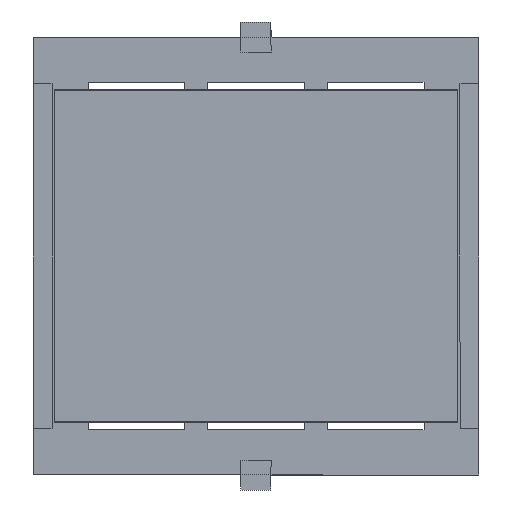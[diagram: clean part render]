
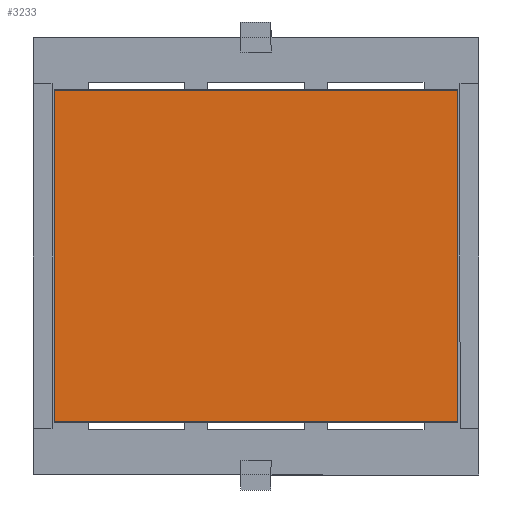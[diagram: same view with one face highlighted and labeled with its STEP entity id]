
A CAD part, front view. The second image highlights one B-rep face of the part: STEP entity #3233.
In plain terms, the highlighted planar face has unit normal (0, -1, 0).
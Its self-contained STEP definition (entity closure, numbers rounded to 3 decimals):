
#271 = DIRECTION ( 'NONE',  ( 1., 0., 0. ) ) ;
#282 = VERTEX_POINT ( 'NONE', #3894 ) ;
#562 = ORIENTED_EDGE ( 'NONE', *, *, #5371, .F. ) ;
#672 = DIRECTION ( 'NONE',  ( -1., 0., 0. ) ) ;
#722 = LINE ( 'NONE', #4300, #1774 ) ;
#861 = DIRECTION ( 'NONE',  ( 0., 1., 0. ) ) ;
#1078 = ORIENTED_EDGE ( 'NONE', *, *, #2094, .F. ) ;
#1164 = EDGE_CURVE ( 'NONE', #282, #4774, #2036, .T. ) ;
#1228 = CARTESIAN_POINT ( 'NONE',  ( 3.296, -8.053, -0.3 ) ) ;
#1313 = CARTESIAN_POINT ( 'NONE',  ( -23.628, -8.053, 21.798 ) ) ;
#1670 = CARTESIAN_POINT ( 'NONE',  ( -23.628, -8.053, 21.798 ) ) ;
#1774 = VECTOR ( 'NONE', #271, 1000. ) ;
#1853 = EDGE_CURVE ( 'NONE', #4774, #4703, #1909, .T. ) ;
#1899 = LINE ( 'NONE', #2310, #4167 ) ;
#1909 = LINE ( 'NONE', #5070, #2592 ) ;
#2036 = LINE ( 'NONE', #2420, #4914 ) ;
#2094 = EDGE_CURVE ( 'NONE', #5066, #282, #722, .T. ) ;
#2276 = DIRECTION ( 'NONE',  ( 0., 0., 1. ) ) ;
#2310 = CARTESIAN_POINT ( 'NONE',  ( -23.628, -8.053, -0.3 ) ) ;
#2420 = CARTESIAN_POINT ( 'NONE',  ( 3.296, -8.053, -0.3 ) ) ;
#2592 = VECTOR ( 'NONE', #672, 1000. ) ;
#3233 = ADVANCED_FACE ( 'NONE', ( #5260 ), #3443, .F. ) ;
#3443 = PLANE ( 'NONE',  #5160 ) ;
#3821 = DIRECTION ( 'NONE',  ( 0., 0., -1. ) ) ;
#3894 = CARTESIAN_POINT ( 'NONE',  ( 3.296, -8.053, 21.798 ) ) ;
#4065 = CARTESIAN_POINT ( 'NONE',  ( -23.628, -8.053, -0.3 ) ) ;
#4167 = VECTOR ( 'NONE', #2276, 1000. ) ;
#4300 = CARTESIAN_POINT ( 'NONE',  ( -23.628, -8.053, 21.798 ) ) ;
#4308 = EDGE_LOOP ( 'NONE', ( #562, #4715, #5000, #1078 ) ) ;
#4703 = VERTEX_POINT ( 'NONE', #4065 ) ;
#4715 = ORIENTED_EDGE ( 'NONE', *, *, #1853, .F. ) ;
#4774 = VERTEX_POINT ( 'NONE', #1228 ) ;
#4914 = VECTOR ( 'NONE', #3821, 1000. ) ;
#4950 = DIRECTION ( 'NONE',  ( 0., 0., 1. ) ) ;
#5000 = ORIENTED_EDGE ( 'NONE', *, *, #1164, .F. ) ;
#5066 = VERTEX_POINT ( 'NONE', #1670 ) ;
#5070 = CARTESIAN_POINT ( 'NONE',  ( -23.628, -8.053, -0.3 ) ) ;
#5160 = AXIS2_PLACEMENT_3D ( 'NONE', #1313, #861, #4950 ) ;
#5260 = FACE_OUTER_BOUND ( 'NONE', #4308, .T. ) ;
#5371 = EDGE_CURVE ( 'NONE', #4703, #5066, #1899, .T. ) ;
